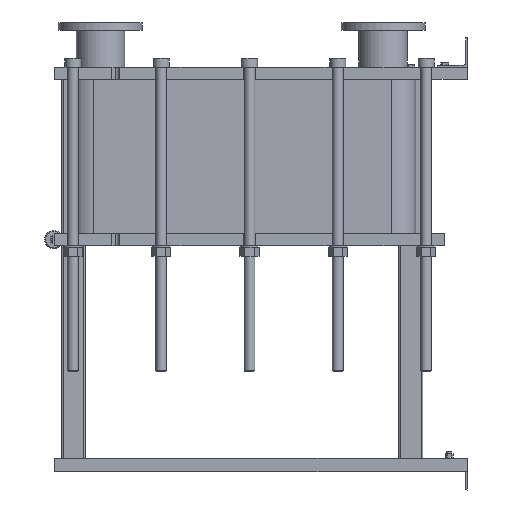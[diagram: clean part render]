
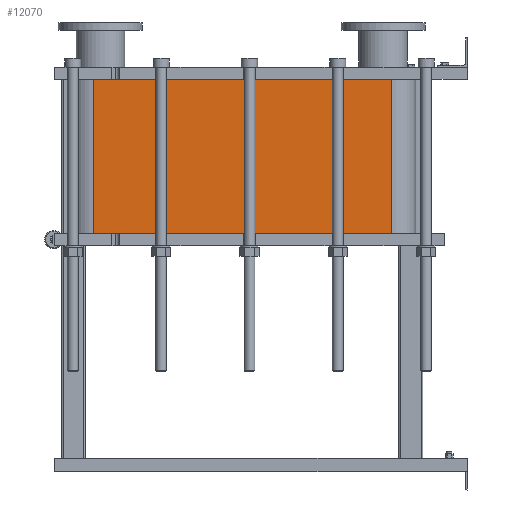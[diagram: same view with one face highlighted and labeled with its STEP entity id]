
A CAD part, left-side view. The second image highlights one B-rep face of the part: STEP entity #12070.
In plain terms, the highlighted planar face has unit normal (-1, 0, 0).
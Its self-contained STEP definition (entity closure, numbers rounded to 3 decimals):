
#1064=LINE('',#21140,#2164);
#1065=LINE('',#21144,#2165);
#1066=LINE('',#21146,#2166);
#1067=LINE('',#21147,#2167);
#2164=VECTOR('',#15790,10.);
#2165=VECTOR('',#15795,10.);
#2166=VECTOR('',#15796,10.);
#2167=VECTOR('',#15797,10.);
#3304=FACE_OUTER_BOUND('',#4091,.T.);
#4091=EDGE_LOOP('',(#9793,#9794,#9795,#9796));
#5677=VERTEX_POINT('',#21137);
#5678=VERTEX_POINT('',#21139);
#5679=VERTEX_POINT('',#21143);
#5680=VERTEX_POINT('',#21145);
#7118=EDGE_CURVE('',#5678,#5677,#1064,.T.);
#7120=EDGE_CURVE('',#5677,#5679,#1065,.T.);
#7121=EDGE_CURVE('',#5680,#5679,#1066,.T.);
#7122=EDGE_CURVE('',#5680,#5678,#1067,.T.);
#9793=ORIENTED_EDGE('',*,*,#7120,.T.);
#9794=ORIENTED_EDGE('',*,*,#7121,.F.);
#9795=ORIENTED_EDGE('',*,*,#7122,.T.);
#9796=ORIENTED_EDGE('',*,*,#7118,.T.);
#11441=PLANE('',#13191);
#12070=ADVANCED_FACE('',(#3304),#11441,.T.);
#13191=AXIS2_PLACEMENT_3D('',#21142,#15793,#15794);
#15790=DIRECTION('',(0.,0.,-1.));
#15793=DIRECTION('center_axis',(-1.,0.,0.));
#15794=DIRECTION('ref_axis',(0.,1.,0.));
#15795=DIRECTION('',(0.,-1.,0.));
#15796=DIRECTION('',(0.,0.,-1.));
#15797=DIRECTION('',(0.,1.,0.));
#21137=CARTESIAN_POINT('',(-248.152,1243.818,-514.05));
#21139=CARTESIAN_POINT('',(-248.152,1243.818,0.));
#21140=CARTESIAN_POINT('',(-248.152,1243.818,0.));
#21142=CARTESIAN_POINT('Origin',(-248.152,251.818,0.));
#21143=CARTESIAN_POINT('',(-248.152,251.818,-514.05));
#21144=CARTESIAN_POINT('',(-248.152,499.818,-514.05));
#21145=CARTESIAN_POINT('',(-248.152,251.818,0.));
#21146=CARTESIAN_POINT('',(-248.152,251.818,0.));
#21147=CARTESIAN_POINT('',(-248.152,251.818,0.));
